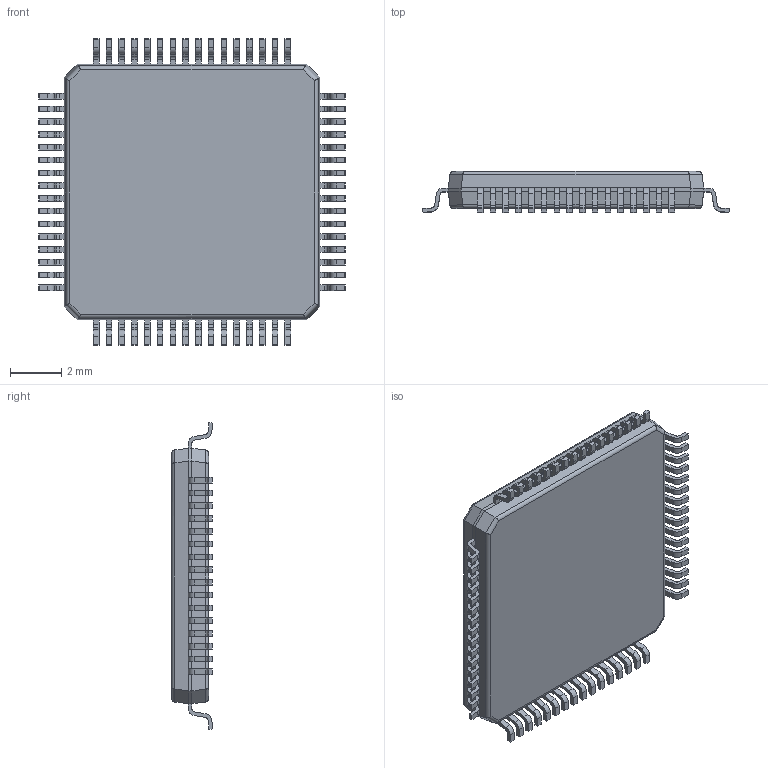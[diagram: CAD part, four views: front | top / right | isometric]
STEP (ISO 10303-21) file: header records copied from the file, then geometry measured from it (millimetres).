
FILE_DESCRIPTION (( 'STEP AP214' ), '1' );
FILE_NAME ('STM32G0B1RET6.STEP', '2024-01-26T03:30:46', ( 'LENOVO' ), ( '' ), 'SwSTEP 2.0', 'SolidWorks 2021', '' );
FILE_SCHEMA (( 'AUTOMOTIVE_DESIGN' ));
Length unit declared in the file: millimetre
Products named in the file (1): STM32G0B1RET6
Bounding box: 12 x 1.6 x 12 mm (x, y, z)
Volume: 145 mm3; surface area: 322.1 mm2
Topology: 66 solids, 66 shells, 945 faces, 2436 edges, 1624 vertices
Faces by surface type: plane 669, cylinder 276
Entity records: 29525 total; most frequent: CARTESIAN_POINT 5342, ORIENTED_EDGE 4872, DIRECTION 4816, EDGE_CURVE 2436, LINE 1884, VECTOR 1884, VERTEX_POINT 1624, AXIS2_PLACEMENT_3D 1466
